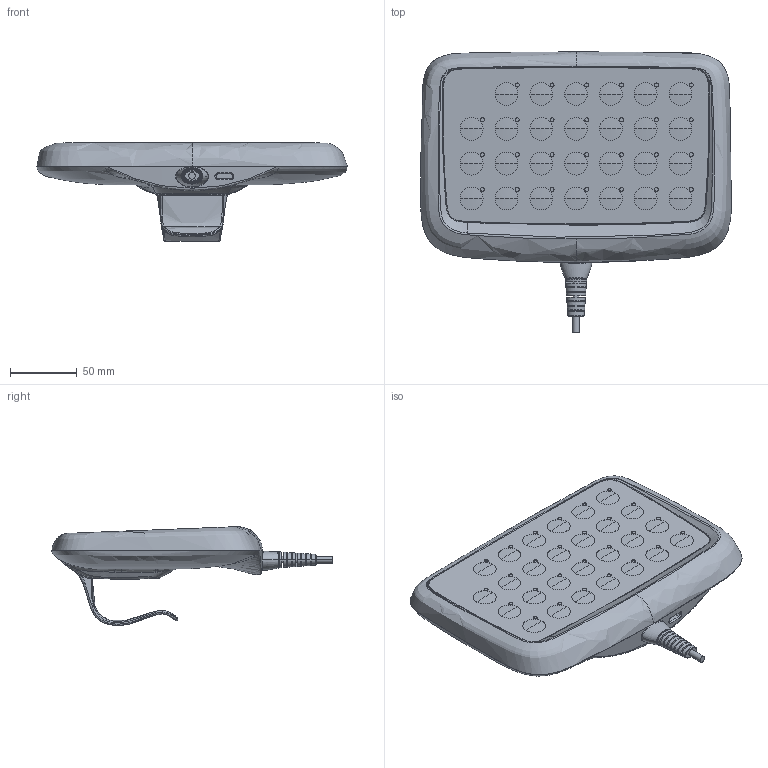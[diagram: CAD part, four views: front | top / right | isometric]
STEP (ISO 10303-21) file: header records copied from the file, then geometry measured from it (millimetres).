
FILE_DESCRIPTION (( 'STEP AP203' ), '1' );
FILE_NAME ('TNP1_S.STEP', '2010-09-10T07:23:14', ( 'Jeremy' ), ( '' ), 'SwSTEP 2.0', 'SolidWorks 2010', '' );
FILE_SCHEMA (( 'CONFIG_CONTROL_DESIGN' ));
Products named in the file (5): TNP1; TNP1_S; TNP1_HOOK_CLIP; 40510-061-SR-A; TNP1_name plate
Assembly tree (4 placements, depth 2):
  TNP1_S
    40510-061-SR-A
    TNP1_HOOK_CLIP
    TNP1
    TNP1_name plate
Bounding box: 232.17 x 209.32 x 73.86 mm (x, y, z)
Volume: 877922.8 mm3; surface area: 220097.8 mm2
Topology: 5 solids, 5 shells, 516 faces, 1235 edges, 796 vertices
Faces by surface type: cylinder 156, plane 155, bspline 144, sphere 58, cone 3
Entity records: 53086 total; most frequent: CARTESIAN_POINT 41547, ORIENTED_EDGE 2462, DIRECTION 1946, EDGE_CURVE 1231, VERTEX_POINT 796, AXIS2_PLACEMENT_3D 791, EDGE_LOOP 587, FACE_OUTER_BOUND 516
